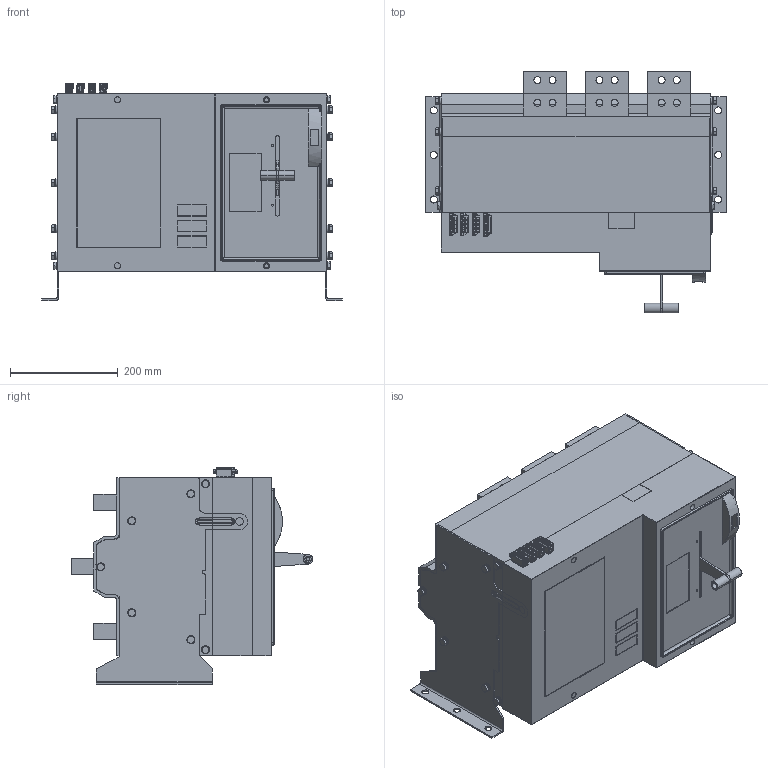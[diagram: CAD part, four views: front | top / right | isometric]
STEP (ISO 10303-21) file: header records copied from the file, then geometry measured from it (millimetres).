
FILE_DESCRIPTION (( 'STEP AP214' ), '1' );
FILE_NAME ('XKQE3150-3150A-3P.STEP', '2023-04-21T03:04:37', ( '' ), ( '' ), 'SwSTEP 2.0', 'SolidWorks 2020', '' );
FILE_SCHEMA (( 'AUTOMOTIVE_DESIGN' ));
Length unit declared in the file: millimetre
Products named in the file (11): 5XKQE.050.101.STEP.STEP.STEP; 5XKQE-024-102_3_2.STEP.STEP.STEP; M8-25________.STEP.STEP; 5XKQE.551.127.1-4.STEP.STEP.STEP; 8XKQE-253-102_1_1.STEP.STEP.STEP; 1_2_1.STEP.STEP.STEP; 8XKQE-003-100___.STEP.STEP.STEP; 8XKQE-253-101_1_1.STEP.STEP.STEP; 8XKQE-050-124_3_1.STEP.STEP.STEP; XKQE3150-3150A-3P; ________.STEP
Assembly tree (26 placements, depth 2):
  XKQE3150-3150A-3P
    8XKQE-050-124_3_1.STEP.STEP.STEP
    1_2_1.STEP.STEP.STEP
    5XKQE.050.101.STEP.STEP.STEP
    8XKQE-253-102_1_1.STEP.STEP.STEP  x2
    8XKQE-003-100___.STEP.STEP.STEP
    8XKQE-253-101_1_1.STEP.STEP.STEP
    5XKQE-024-102_3_2.STEP.STEP.STEP
    5XKQE.551.127.1-4.STEP.STEP.STEP  x3
    M8-25________.STEP.STEP  x14
    ________.STEP
Bounding box: 557 x 448 x 402 mm (x, y, z)
Volume: 45682108.9 mm3; surface area: 2230040.9 mm2
Topology: 90 solids, 195 shells, 6169 faces, 16015 edges, 10478 vertices
Faces by surface type: plane 3896, cylinder 1469, cone 481, bspline 249, torus 66, sphere 8
Entity records: 187254 total; most frequent: CARTESIAN_POINT 50393, ORIENTED_EDGE 29530, DIRECTION 26123, EDGE_CURVE 14765, VECTOR 10037, LINE 10037, VERTEX_POINT 9682, AXIS2_PLACEMENT_3D 8043
